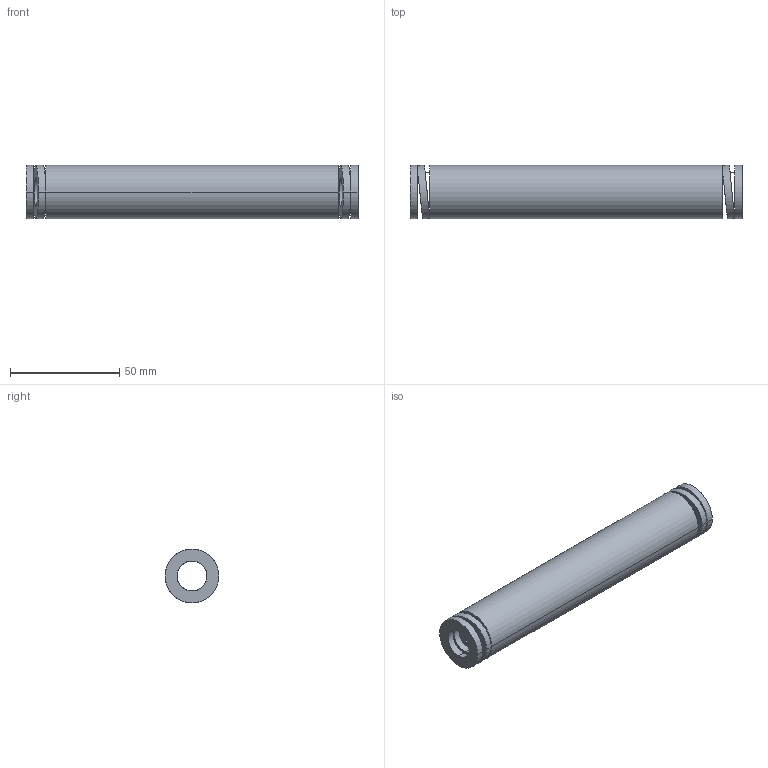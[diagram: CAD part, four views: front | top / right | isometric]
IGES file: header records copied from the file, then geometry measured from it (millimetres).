
Start section: START RECORD GO HERE.
Global section: file name: 392-B25-152.igs; native system: DASSAULT SYSTEMES CATIA V5 R20 - www.3ds.com; preprocessor: CATIA Version 5 Release 20 ; author: Utente; organization: NB04-ASUS; date: 20210813.094308; units: millimetre
Bounding box: 152 x 24.71 x 24.5 mm (x, y, z)
Surface area: 20879.1 mm2 (no closed solid volume)
Topology: 0 solids, 0 shells, 38 faces, 184 edges, 184 vertices
Faces by surface type: revolution 28, plane 10
